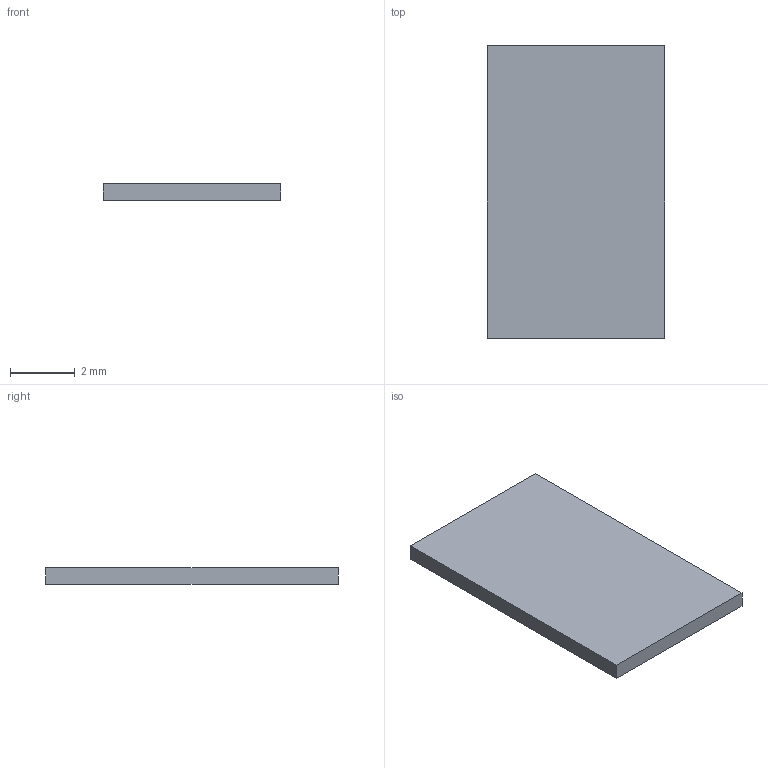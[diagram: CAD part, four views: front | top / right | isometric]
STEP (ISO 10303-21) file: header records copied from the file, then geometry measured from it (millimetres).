
FILE_DESCRIPTION(/* description */ (''),/* implementation_level */ '2;1');
FILE_NAME(/* name */ 'C28_R3_Volume_Down_Rear_Keeper_Pad_0p50.step',/* time_stamp */ '2026-09-10T17:50:07-07:00',/* author */ (''),/* organization */ (''),/* preprocessor_version */ 'ST-DEVELOPER v20.1',/* originating_system */ 'Autodesk Translation Framework v15.8.0.0',/* authorisation */ '');
FILE_SCHEMA (('AUTOMOTIVE_DESIGN { 1 0 10303 214 3 1 1 }'));
Length unit declared in the file: millimetre
Products named in the file (1): 2026-09-10-17-50-07-364
Bounding box: 5.45 x 9 x 0.5 mm (x, y, z)
Volume: 24.5 mm3; surface area: 112.5 mm2
Topology: 1 solids, 1 shells, 6 faces, 12 edges, 8 vertices
Faces by surface type: plane 6
Entity records: 189 total; most frequent: CARTESIAN_POINT 27, DIRECTION 26, ORIENTED_EDGE 24, LINE 12, VECTOR 12, EDGE_CURVE 12, VERTEX_POINT 8, AXIS2_PLACEMENT_3D 7
